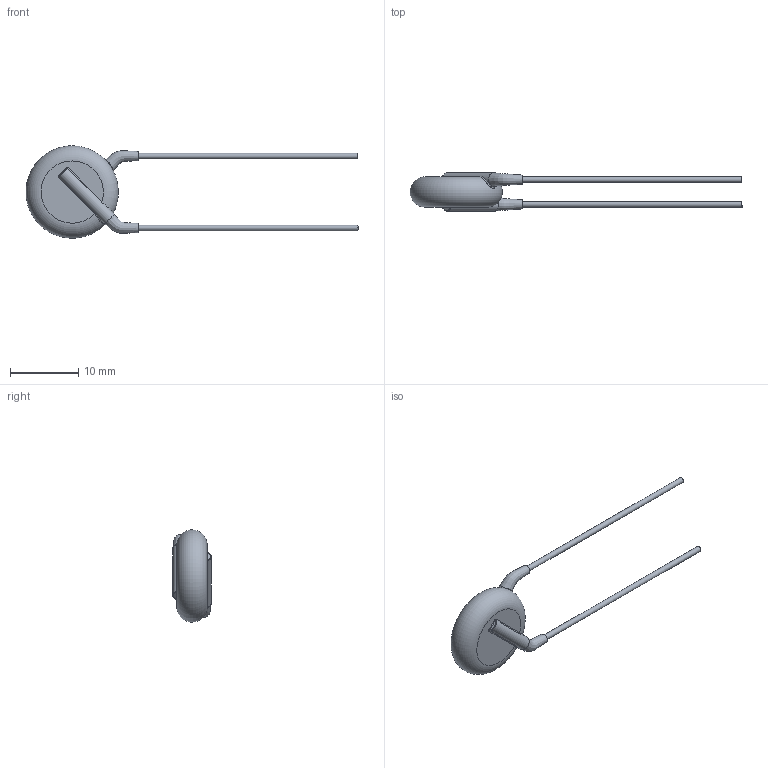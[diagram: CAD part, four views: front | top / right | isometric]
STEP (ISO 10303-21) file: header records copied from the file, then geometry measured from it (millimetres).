
FILE_DESCRIPTION(/* description */ (''),/* implementation_level */ '2;1');
FILE_NAME(/* name */ 'I:\Marketing\M6t1\3D-Models\Zchng-Werk-3\Upload for homepage\Ceramite\Y5U\440LD40-R\440LD40-R.stp',/* time_stamp */ '2016-11-10T14:43:20+01:00',/* author */ ('sheinrich'),/* organization */ (''),/* preprocessor_version */ 'ST-DEVELOPER v16.1',/* originating_system */ 'Autodesk Inventor 2016',/* authorisation */ '');
FILE_SCHEMA (('AUTOMOTIVE_DESIGN { 1 0 10303 214 3 1 1 }'));
Length unit declared in the file: millimetre
Products named in the file (1): 440LD40-R
Bounding box: 48.49 x 5.6 x 13.48 mm (x, y, z)
Volume: 622 mm3; surface area: 616.7 mm2
Topology: 1 solids, 1 shells, 39 faces, 84 edges, 45 vertices
Faces by surface type: bspline 12, cylinder 12, plane 8, torus 7
Full cylindrical faces by diameter (mm): 0.81 x2
Entity records: 1799 total; most frequent: CARTESIAN_POINT 982, ORIENTED_EDGE 152, DIRECTION 144, EDGE_CURVE 76, AXIS2_PLACEMENT_3D 66, EDGE_LOOP 44, VERTEX_POINT 44, STYLED_ITEM 40
